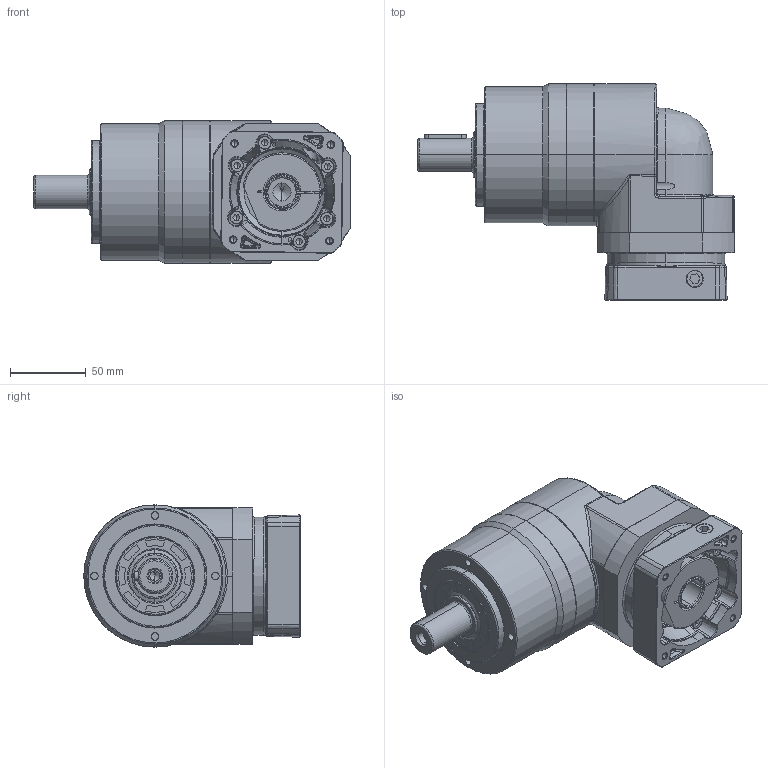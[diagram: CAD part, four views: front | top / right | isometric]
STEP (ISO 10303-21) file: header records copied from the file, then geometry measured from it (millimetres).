
FILE_DESCRIPTION (( 'STEP AP214' ), '1' );
FILE_NAME ('EVL090-L1-S2-P1 19-70-90-M5-45.STEP', '2025-02-14T06:50:52', ( '微软用户' ), ( '微软中国' ), 'SwSTEP 2.0', 'SolidWorks 2021', '' );
FILE_SCHEMA (( 'AUTOMOTIVE_DESIGN' ));
Length unit declared in the file: millimetre
Products named in the file (4): EVT090D-L1-10-80-100-M6-45.STEP; VRL090D-L1-S2-19-70-90-M5-45.STEP; EVL090-L1-S2-P1 19-70-90-M5-45; 7-EVT090F_________stp_stp.stp.STEP
Assembly tree (7 placements, depth 2):
  EVL090-L1-S2-P1 19-70-90-M5-45
    VRL090D-L1-S2-19-70-90-M5-45.STEP
    7-EVT090F_________stp_stp.stp.STEP
    EVT090D-L1-10-80-100-M6-45.STEP  x5
Bounding box: 209 x 143.02 x 94 mm (x, y, z)
Volume: 242188.5 mm3; surface area: 202893.2 mm2
Topology: 1 solids, 34 shells, 1207 faces, 2990 edges, 1901 vertices
Faces by surface type: cylinder 379, plane 370, bspline 257, cone 197, torus 4
Entity records: 56495 total; most frequent: CARTESIAN_POINT 32459, ORIENTED_EDGE 5271, DIRECTION 4427, EDGE_CURVE 2664, AXIS2_PLACEMENT_3D 1752, VERTEX_POINT 1709, EDGE_LOOP 1218, ADVANCED_FACE 1091
